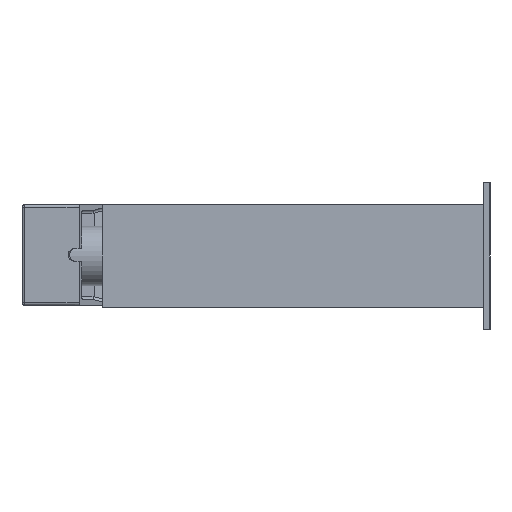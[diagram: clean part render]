
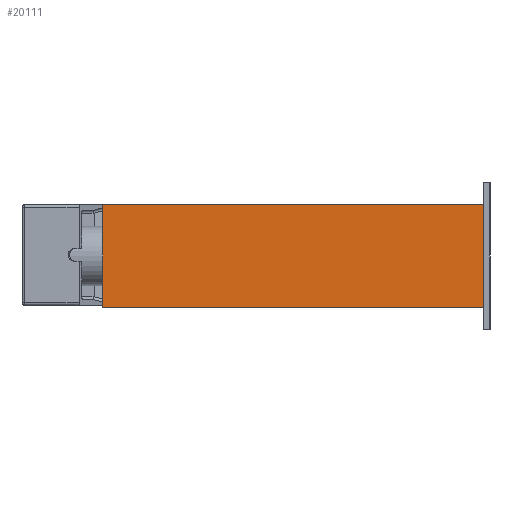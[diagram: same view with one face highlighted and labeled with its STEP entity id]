
A CAD part, left-side view. The second image highlights one B-rep face of the part: STEP entity #20111.
In plain terms, the highlighted planar face has unit normal (-1, 0, 0).
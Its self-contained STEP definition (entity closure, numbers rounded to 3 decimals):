
#3660 = PLANE ( 'NONE',  #3969 ) ;
#3969 = AXIS2_PLACEMENT_3D ( 'NONE', #72258, #32489, #71517 ) ;
#5480 = CARTESIAN_POINT ( 'NONE',  ( -120.269, -67.839, -16.85 ) ) ;
#10129 = VERTEX_POINT ( 'NONE', #33288 ) ;
#10452 = VECTOR ( 'NONE', #29081, 1000. ) ;
#12706 = EDGE_LOOP ( 'NONE', ( #20289, #51058, #51162, #39544 ) ) ;
#14323 = CARTESIAN_POINT ( 'NONE',  ( -120.269, 56.511, -16.85 ) ) ;
#14727 = CARTESIAN_POINT ( 'NONE',  ( -120.269, 57.511, -16.85 ) ) ;
#20111 = ADVANCED_FACE ( 'NONE', ( #65919 ), #3660, .F. ) ;
#20289 = ORIENTED_EDGE ( 'NONE', *, *, #61655, .T. ) ;
#27070 = CARTESIAN_POINT ( 'NONE',  ( -120.269, 57.511, 16.85 ) ) ;
#29081 = DIRECTION ( 'NONE',  ( 0., 0., 1. ) ) ;
#31166 = LINE ( 'NONE', #14323, #49801 ) ;
#32489 = DIRECTION ( 'NONE',  ( 1., 0., 0. ) ) ;
#33288 = CARTESIAN_POINT ( 'NONE',  ( -120.269, 57.511, -16.85 ) ) ;
#35383 = VECTOR ( 'NONE', #39266, 1000. ) ;
#39266 = DIRECTION ( 'NONE',  ( 0., 0., 1. ) ) ;
#39544 = ORIENTED_EDGE ( 'NONE', *, *, #44851, .T. ) ;
#44851 = EDGE_CURVE ( 'NONE', #62056, #55331, #57208, .T. ) ;
#46160 = CARTESIAN_POINT ( 'NONE',  ( -120.269, -67.839, -16.85 ) ) ;
#46410 = EDGE_CURVE ( 'NONE', #10129, #57389, #51974, .T. ) ;
#48979 = LINE ( 'NONE', #54952, #52484 ) ;
#49801 = VECTOR ( 'NONE', #60053, 1000. ) ;
#51058 = ORIENTED_EDGE ( 'NONE', *, *, #46410, .F. ) ;
#51162 = ORIENTED_EDGE ( 'NONE', *, *, #70797, .T. ) ;
#51974 = LINE ( 'NONE', #14727, #10452 ) ;
#52484 = VECTOR ( 'NONE', #71816, 1000. ) ;
#54952 = CARTESIAN_POINT ( 'NONE',  ( -120.269, 43.811, 16.85 ) ) ;
#55331 = VERTEX_POINT ( 'NONE', #57788 ) ;
#57208 = LINE ( 'NONE', #5480, #35383 ) ;
#57389 = VERTEX_POINT ( 'NONE', #27070 ) ;
#57788 = CARTESIAN_POINT ( 'NONE',  ( -120.269, -67.839, 16.85 ) ) ;
#60053 = DIRECTION ( 'NONE',  ( 0., -1., 0. ) ) ;
#61655 = EDGE_CURVE ( 'NONE', #55331, #57389, #48979, .T. ) ;
#62056 = VERTEX_POINT ( 'NONE', #46160 ) ;
#65919 = FACE_OUTER_BOUND ( 'NONE', #12706, .T. ) ;
#70797 = EDGE_CURVE ( 'NONE', #10129, #62056, #31166, .T. ) ;
#71517 = DIRECTION ( 'NONE',  ( 0., 1., 0. ) ) ;
#71816 = DIRECTION ( 'NONE',  ( 0., 1., 0. ) ) ;
#72258 = CARTESIAN_POINT ( 'NONE',  ( -120.269, 105.17, -16.85 ) ) ;
